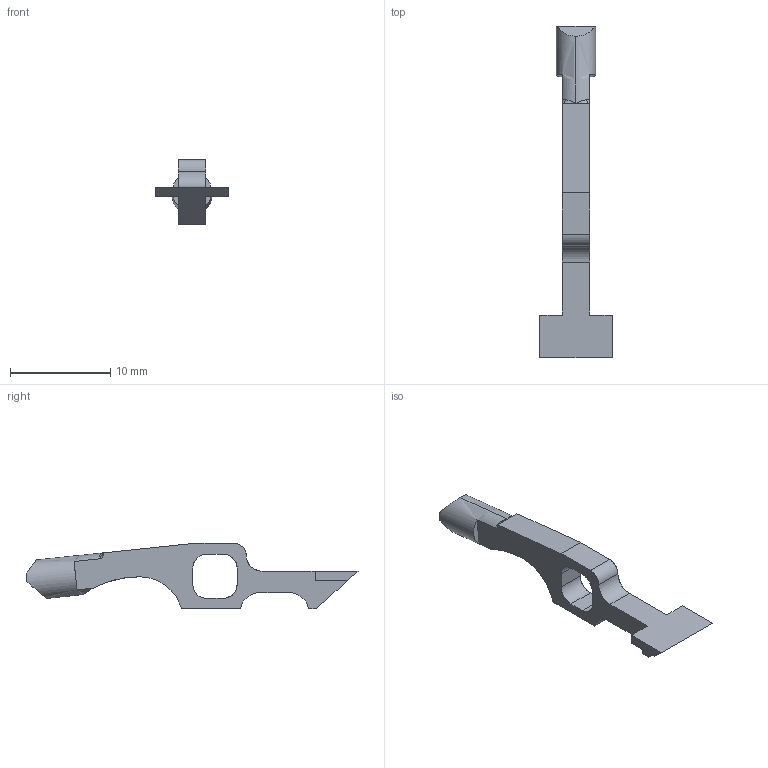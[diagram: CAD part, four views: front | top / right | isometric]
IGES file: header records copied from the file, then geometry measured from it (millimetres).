
Start section: SolidWorks IGES file using analytic representation for surfaces
Global section: file name: \\PSSILO\catalogs\CONTENTCENTRAL\DISCONNECTOR\Cache\484FE0A3-943E-48EE-812F-419C6E29FFC2.IGS; native system: SolidWorks 2009; preprocessor: SolidWorks 2009; author: partstream; date: 090716.113013; units: inch
Bounding box: 7.24 x 33.19 x 6.5 mm (x, y, z)
Surface area: 493.1 mm2 (no closed solid volume)
Topology: 0 solids, 0 shells, 44 faces, 469 edges, 467 vertices
Faces by surface type: bspline 30, revolution 14
